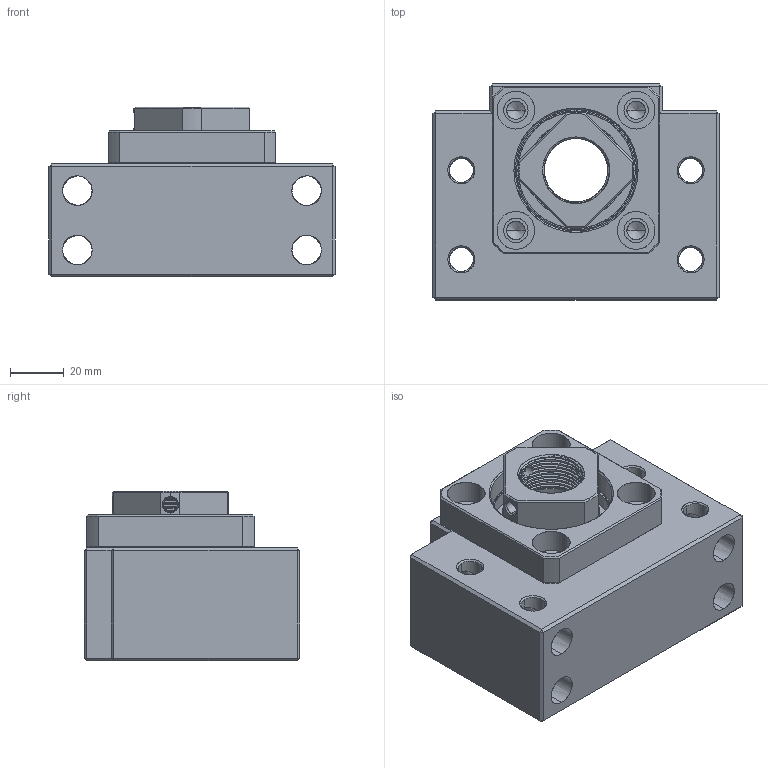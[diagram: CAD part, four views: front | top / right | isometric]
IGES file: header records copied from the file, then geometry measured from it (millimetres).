
Start section: SolidWorks IGES file using analytic representation for surfaces
Global section: file name: Z:\Accessories\_GC_!!!\SYK\Support unit\BK\BK25.IGS; native system: SolidWorks 2015; preprocessor: SolidWorks 2015; author: User; date: 170504.144901; units: millimetre
Bounding box: 106 x 80 x 63 mm (x, y, z)
Surface area: 99265.1 mm2 (no closed solid volume)
Topology: 0 solids, 0 shells, 496 faces, 8509 edges, 8388 vertices
Faces by surface type: bspline 265, revolution 231
